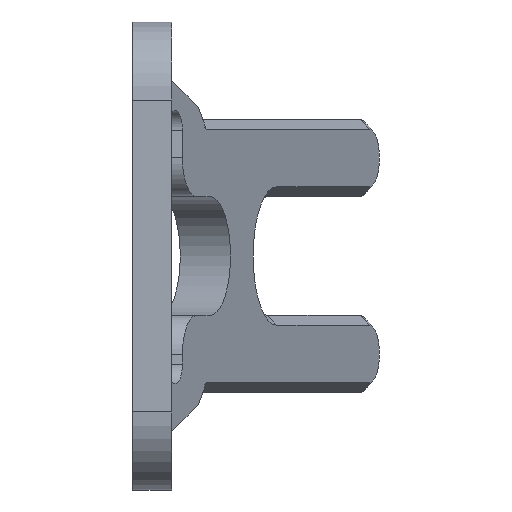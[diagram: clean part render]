
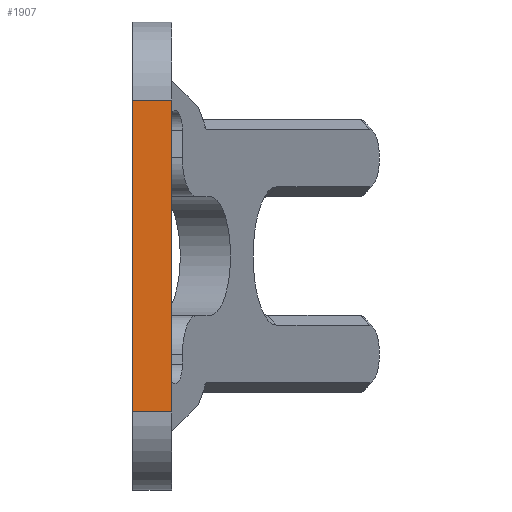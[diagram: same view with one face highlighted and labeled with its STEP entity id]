
A CAD part, left-side view. The second image highlights one B-rep face of the part: STEP entity #1907.
In plain terms, the highlighted planar face has unit normal (-1, 0, 0).
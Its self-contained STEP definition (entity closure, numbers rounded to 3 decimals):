
#9 = EDGE_LOOP ( 'NONE', ( #2431, #644, #1787, #672 ) ) ;
#53 = DIRECTION ( 'NONE',  ( 0., 0., 1. ) ) ;
#213 = LINE ( 'NONE', #2884, #1924 ) ;
#323 = EDGE_CURVE ( 'NONE', #1252, #2280, #1974, .T. ) ;
#463 = CARTESIAN_POINT ( 'NONE',  ( -6., 1., 6. ) ) ;
#490 = VERTEX_POINT ( 'NONE', #2143 ) ;
#644 = ORIENTED_EDGE ( 'NONE', *, *, #2132, .T. ) ;
#672 = ORIENTED_EDGE ( 'NONE', *, *, #323, .T. ) ;
#675 = DIRECTION ( 'NONE',  ( 0., 0., 1. ) ) ;
#756 = CARTESIAN_POINT ( 'NONE',  ( -6., 1., -4. ) ) ;
#813 = DIRECTION ( 'NONE',  ( 0., 0., 1. ) ) ;
#864 = DIRECTION ( 'NONE',  ( 0., 1., 0. ) ) ;
#1222 = LINE ( 'NONE', #2568, #1952 ) ;
#1252 = VERTEX_POINT ( 'NONE', #1373 ) ;
#1271 = LINE ( 'NONE', #2581, #1777 ) ;
#1373 = CARTESIAN_POINT ( 'NONE',  ( -6., 1., 4. ) ) ;
#1657 = AXIS2_PLACEMENT_3D ( 'NONE', #463, #2050, #53 ) ;
#1777 = VECTOR ( 'NONE', #813, 1000. ) ;
#1787 = ORIENTED_EDGE ( 'NONE', *, *, #2629, .T. ) ;
#1788 = FACE_OUTER_BOUND ( 'NONE', #9, .T. ) ;
#1897 = DIRECTION ( 'NONE',  ( 0., -1., 0. ) ) ;
#1907 = ADVANCED_FACE ( 'NONE', ( #1788 ), #2702, .T. ) ;
#1924 = VECTOR ( 'NONE', #675, 1000. ) ;
#1952 = VECTOR ( 'NONE', #1897, 1000. ) ;
#1974 = LINE ( 'NONE', #2882, #2153 ) ;
#2050 = DIRECTION ( 'NONE',  ( -1., 0., 0. ) ) ;
#2132 = EDGE_CURVE ( 'NONE', #490, #2151, #1222, .T. ) ;
#2143 = CARTESIAN_POINT ( 'NONE',  ( -6., 2., -4. ) ) ;
#2151 = VERTEX_POINT ( 'NONE', #756 ) ;
#2153 = VECTOR ( 'NONE', #864, 1000. ) ;
#2195 = CARTESIAN_POINT ( 'NONE',  ( -6., 2., 4. ) ) ;
#2280 = VERTEX_POINT ( 'NONE', #2195 ) ;
#2431 = ORIENTED_EDGE ( 'NONE', *, *, #2802, .F. ) ;
#2568 = CARTESIAN_POINT ( 'NONE',  ( -6., 1., -4. ) ) ;
#2581 = CARTESIAN_POINT ( 'NONE',  ( -6., 1., 6. ) ) ;
#2629 = EDGE_CURVE ( 'NONE', #2151, #1252, #1271, .T. ) ;
#2702 = PLANE ( 'NONE',  #1657 ) ;
#2802 = EDGE_CURVE ( 'NONE', #490, #2280, #213, .T. ) ;
#2882 = CARTESIAN_POINT ( 'NONE',  ( -6., 1., 4. ) ) ;
#2884 = CARTESIAN_POINT ( 'NONE',  ( -6., 2., 6. ) ) ;
